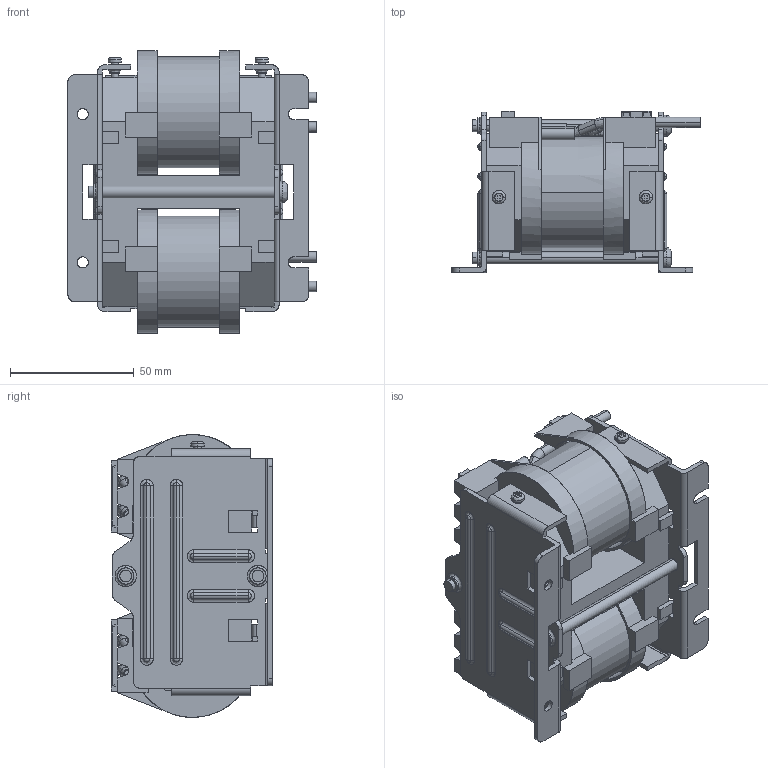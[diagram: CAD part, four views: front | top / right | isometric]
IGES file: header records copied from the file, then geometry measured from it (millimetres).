
Start section: SolidWorks IGES file using analytic representation for surfaces
Bounding box: 100.5 x 65.4 x 114.5 mm (x, y, z)
Surface area: 105625.2 mm2 (no closed solid volume)
Topology: 0 solids, 0 shells, 945 faces, 10949 edges, 10920 vertices
Faces by surface type: bspline 579, revolution 366
